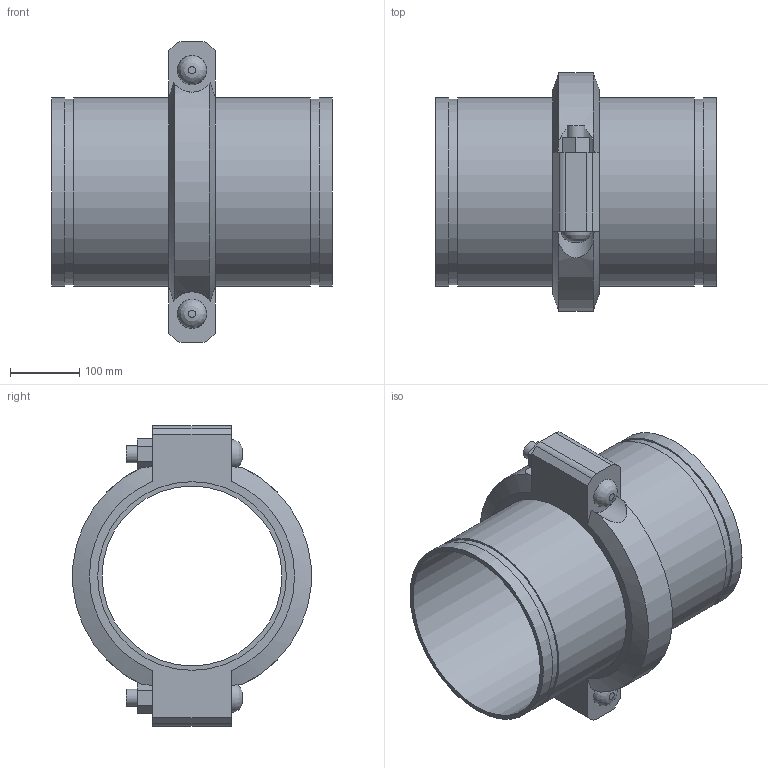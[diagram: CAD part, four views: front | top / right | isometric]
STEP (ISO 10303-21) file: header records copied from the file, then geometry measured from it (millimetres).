
FILE_DESCRIPTION(/* description */ ('VIC EXPANSION JOINT 1 COUPLING COMPRESSED STYLE 155 (OGS)','CAx-IF Rec.Pracs.---Representation and Presentation of Product Manufacturing Information (PMI)---4.0---2014-10-13'),/* implementation_level */ '2;1');
FILE_NAME(/* name */ 'C:\Users\kkamble\AppData\Roaming\Autodesk\ApplicationPlugins\Victaulic.Temp\A74\Victaulic_IPS_Expansion Joint_Compressed_1 Coupling_Style 155 (OGS)_10 (250).stp',/* time_stamp */ '2021-06-27T00:14:58+02:00',/* author */ ('kkamble'),/* organization */ ('Victaulic'),/* preprocessor_version */ 'ST-DEVELOPER v17.2',/* originating_system */ 'Autodesk Inventor 2019',/* authorisation */ '');
FILE_SCHEMA (('AP242_MANAGED_MODEL_BASED_3D_ENGINEERING_MIM_LF { 1 0 10303 442 1 1 4 }'));
Length unit declared in the file: inch
Products named in the file (3): 155-10.0; Nipple-10.0; 077-10.0
Assembly tree (3 placements, depth 2):
  155-10.0
    Nipple-10.0  x2
    077-10.0
Bounding box: 406.4 x 344.9 x 435.1 mm (x, y, z)
Volume: 4978530.5 mm3; surface area: 995476.5 mm2
Topology: 3 solids, 5 shells, 85 faces, 205 edges, 146 vertices
Faces by surface type: plane 48, cylinder 31, cone 4, bspline 2
Full cylindrical faces by diameter (mm): 25.4 x4, 27.432 x2, 260.35 x2, 264.16 x1, 268.275 x4, 273.05 x8
Entity records: 2582 total; most frequent: CARTESIAN_POINT 600, DIRECTION 381, ORIENTED_EDGE 350, EDGE_CURVE 175, AXIS2_PLACEMENT_3D 149, VERTEX_POINT 122, EDGE_LOOP 93, LINE 83
